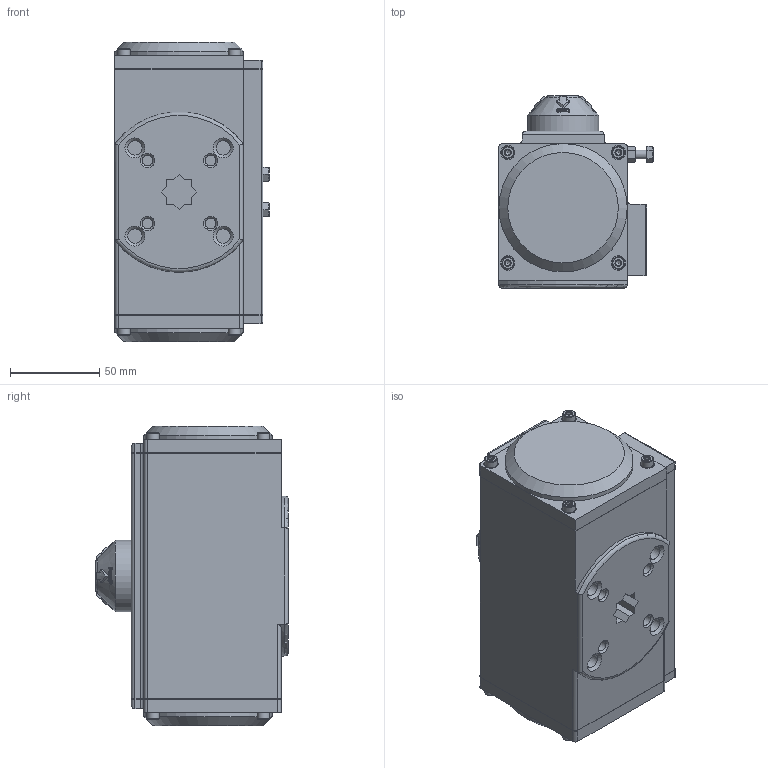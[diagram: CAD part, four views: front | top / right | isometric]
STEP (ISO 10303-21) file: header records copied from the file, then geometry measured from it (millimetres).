
FILE_DESCRIPTION(('STEP AP242'), '1');
FILE_NAME('PA-DA-065 砅槻斁瀔魤鍱 DN.ru', '', ('UNSPECIFIED'), ('UNSPECIFIED'), 'C3D Converter', 'C3D Toolkit', '');
FILE_SCHEMA(('AP242_MANAGED_MODEL_BASED_3D_ENGINEERING_MIM_LF { 1 0 10303 442 1 1 4 }'));
Length unit declared in the file: millimetre
Products named in the file (1): PA-DA-065
Bounding box: 86.5 x 108 x 168 mm (x, y, z)
Volume: 1043570.4 mm3; surface area: 99232.4 mm2
Topology: 1 solids, 4 shells, 1010 faces, 2624 edges, 1708 vertices
Faces by surface type: plane 446, extrusion 346, cylinder 111, cone 91, torus 16
Full cylindrical faces by diameter (mm): 3 x8, 4 x8, 4.724 x2, 5 x12, 6 x4, 7 x8, 8 x21, 34 x2, 40 x1, 72 x2
Entity records: 54559 total; most frequent: CARTESIAN_POINT 24189, ORIENTED_EDGE 4934, DIRECTION 3377, EDGE_CURVE 2467, VERTEX_POINT 1684, B_SPLINE_CURVE_WITH_KNOTS 1432, VECTOR 1391, EDGE_LOOP 1249
